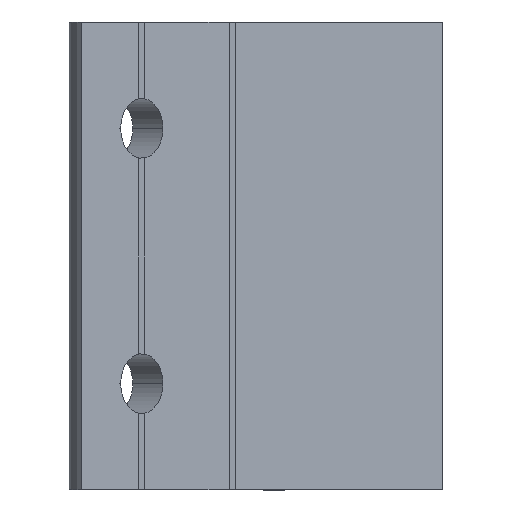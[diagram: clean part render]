
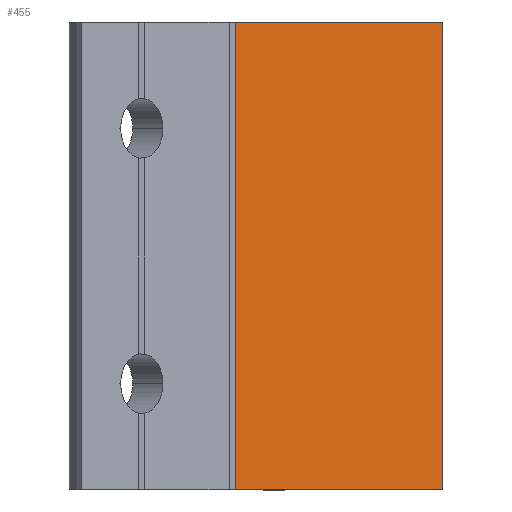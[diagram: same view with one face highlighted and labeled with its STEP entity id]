
A CAD part, left-side view. The second image highlights one B-rep face of the part: STEP entity #455.
In plain terms, the highlighted planar face has unit normal (-0.707, -0.707, 0).
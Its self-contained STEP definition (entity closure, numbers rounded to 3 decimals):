
#8 = CARTESIAN_POINT ( 'NONE',  ( 0., 0., 0. ) ) ;
#10 = CARTESIAN_POINT ( 'NONE',  ( 0., 0., 0. ) ) ;
#32 = CARTESIAN_POINT ( 'NONE',  ( -24.395, 24.395, 0. ) ) ;
#50 = CARTESIAN_POINT ( 'NONE',  ( 0., 0., 27.5 ) ) ;
#73 = DIRECTION ( 'NONE',  ( -0.707, 0.707, 0. ) ) ;
#82 = VECTOR ( 'NONE', #174, 1000. ) ;
#119 = ORIENTED_EDGE ( 'NONE', *, *, #1208, .T. ) ;
#174 = DIRECTION ( 'NONE',  ( 0.707, -0.707, 0. ) ) ;
#186 = VERTEX_POINT ( 'NONE', #1950 ) ;
#239 = LINE ( 'NONE', #50, #1398 ) ;
#338 = FACE_OUTER_BOUND ( 'NONE', #2096, .T. ) ;
#395 = ORIENTED_EDGE ( 'NONE', *, *, #939, .T. ) ;
#423 = EDGE_CURVE ( 'NONE', #186, #1501, #2070, .T. ) ;
#455 = ADVANCED_FACE ( 'NONE', ( #338 ), #517, .T. ) ;
#506 = DIRECTION ( 'NONE',  ( 0., 0., -1. ) ) ;
#517 = PLANE ( 'NONE',  #958 ) ;
#693 = DIRECTION ( 'NONE',  ( 0., 0., -1. ) ) ;
#712 = VECTOR ( 'NONE', #506, 1000. ) ;
#811 = EDGE_CURVE ( 'NONE', #1724, #1202, #1555, .T. ) ;
#939 = EDGE_CURVE ( 'NONE', #1724, #186, #239, .T. ) ;
#958 = AXIS2_PLACEMENT_3D ( 'NONE', #10, #2059, #1199 ) ;
#996 = CARTESIAN_POINT ( 'NONE',  ( 0., 0., 27.5 ) ) ;
#1037 = LINE ( 'NONE', #2204, #82 ) ;
#1199 = DIRECTION ( 'NONE',  ( 0.707, -0.707, 0. ) ) ;
#1202 = VERTEX_POINT ( 'NONE', #1878 ) ;
#1208 = EDGE_CURVE ( 'NONE', #1501, #1202, #1037, .T. ) ;
#1398 = VECTOR ( 'NONE', #73, 1000. ) ;
#1400 = ORIENTED_EDGE ( 'NONE', *, *, #811, .F. ) ;
#1429 = VECTOR ( 'NONE', #693, 1000. ) ;
#1501 = VERTEX_POINT ( 'NONE', #2072 ) ;
#1555 = LINE ( 'NONE', #8, #1429 ) ;
#1724 = VERTEX_POINT ( 'NONE', #996 ) ;
#1768 = ORIENTED_EDGE ( 'NONE', *, *, #423, .T. ) ;
#1878 = CARTESIAN_POINT ( 'NONE',  ( 0., 0., -27.5 ) ) ;
#1950 = CARTESIAN_POINT ( 'NONE',  ( -24.395, 24.395, 27.5 ) ) ;
#2059 = DIRECTION ( 'NONE',  ( -0.707, -0.707, 0. ) ) ;
#2070 = LINE ( 'NONE', #32, #712 ) ;
#2072 = CARTESIAN_POINT ( 'NONE',  ( -24.395, 24.395, -27.5 ) ) ;
#2096 = EDGE_LOOP ( 'NONE', ( #1768, #119, #1400, #395 ) ) ;
#2204 = CARTESIAN_POINT ( 'NONE',  ( 0., 0., -27.5 ) ) ;
